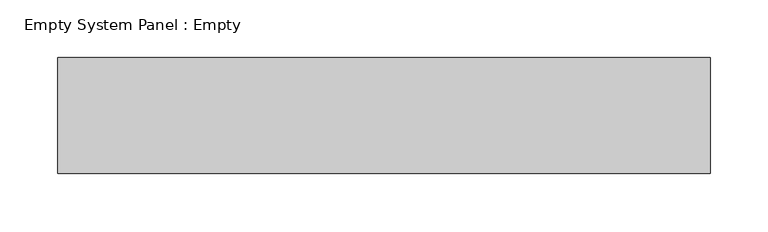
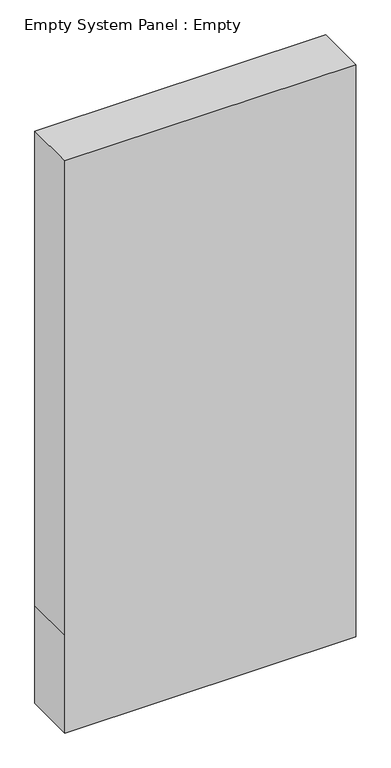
"""IFC4 building model written with IfcOpenShell, lengths in millimetres: plate geometry, Empty System Panel : Empty."""

from ifc_helpers import new_model, si_unit, frame, origin, place, context, project, spatial, polyline, outline, extrude, source, transform, mapped, element, save


def empty_system_panel_empty_4853594d(model_context):
    return source(origin(), model_context, "Body", "SweptSolid", [
        extrude(outline(polyline([(0.0, -281.25), (0.0, 281.25), (200.0, 281.25), (1170.0, 281.25), (1170.0, -281.25), (200.0, -281.25), (0.0, -281.25)])), frame((0.0, -50.0, 0.0), z_axis=(0.0, 1.0, 0.0), x_axis=(0.0, 0.0, 1.0)), (0.0, 0.0, 1.0), 100.0),
    ])


if __name__ == "__main__":
    model = new_model("IFC4")
    model_context = context("Model", 3, world=origin())
    ifc_project = project(units=[si_unit("LENGTHUNIT", "METRE", prefix="MILLI")], contexts=[model_context])
    site = spatial("IfcSite", under=ifc_project)
    building = spatial("IfcBuilding", under=site)
    placement = place(None, origin())
    empty_system_panel_empty_shape = empty_system_panel_empty_4853594d(model_context)
    element("IfcPlate", 1, ObjectType="Empty System Panel : Empty", at=placement, inside=building, context=model_context, shape_type="MappedRepresentation", body=[
        mapped(empty_system_panel_empty_shape, transform((0.0, 0.0, 0.0), x_axis=(1.0, 0.0, 0.0), y_axis=(0.0, 1.0, 0.0), z_axis=(0.0, 0.0, 1.0))),
    ])
    save(model, "model.ifc")
